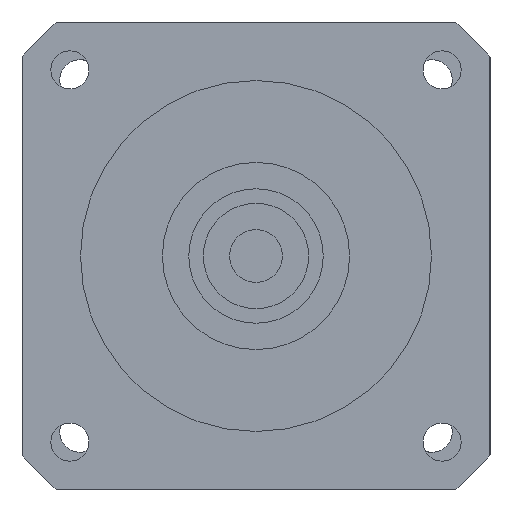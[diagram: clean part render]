
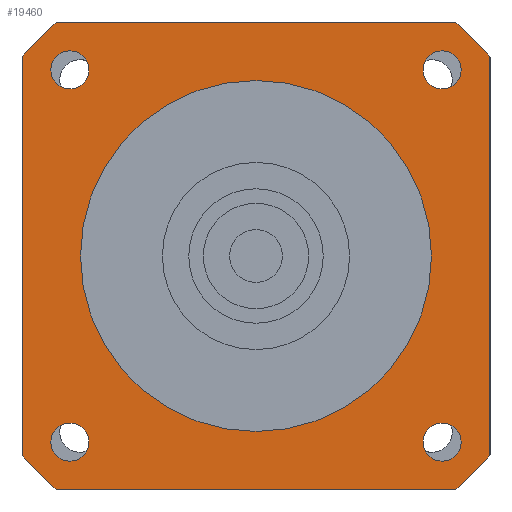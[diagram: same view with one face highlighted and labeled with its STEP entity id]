
A CAD part, left-side view. The second image highlights one B-rep face of the part: STEP entity #19460.
In plain terms, the highlighted planar face has unit normal (-1, 0, 0) as drawn and (0, 0, -1) by its records, which use the part's own axes.
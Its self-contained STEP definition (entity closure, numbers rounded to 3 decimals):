
#17790=CARTESIAN_POINT('',(28.57,-31.82,-42.));
#17800=VERTEX_POINT('',#17790);
#17830=CARTESIAN_POINT('',(31.82,-31.82,-42.));
#17840=DIRECTION('',(0.,0.,-1.));
#17850=DIRECTION('',(1.,0.,0.));
#17860=AXIS2_PLACEMENT_3D('',#17830,#17840,#17850);
#17870=CIRCLE('',#17860,3.25);
#17880=CARTESIAN_POINT('',(35.07,-31.82,-42.));
#17890=VERTEX_POINT('',#17880);
#17900=EDGE_CURVE('',#17890,#17800,#17870,.T.);
#18020=CARTESIAN_POINT('',(40.,40.,-42.));
#18030=DIRECTION('',(0.,0.,-1.));
#18040=DIRECTION('',(1.,0.,0.));
#18050=AXIS2_PLACEMENT_3D('',#18020,#18030,#18040);
#18060=PLANE('',#18050);
#18070=CARTESIAN_POINT('',(-31.82,-31.82,-42.));
#18080=DIRECTION('',(0.,0.,-1.));
#18090=DIRECTION('',(0.,-1.,0.));
#18100=AXIS2_PLACEMENT_3D('',#18070,#18080,#18090);
#18110=CIRCLE('',#18100,3.25);
#18120=CARTESIAN_POINT('',(-31.82,-35.07,-42.));
#18130=VERTEX_POINT('',#18120);
#18140=CARTESIAN_POINT('',(-31.82,-28.57,-42.));
#18150=VERTEX_POINT('',#18140);
#18160=EDGE_CURVE('',#18130,#18150,#18110,.T.);
#18170=ORIENTED_EDGE('',*,*,#18160,.F.);
#18180=EDGE_CURVE('',#18150,#18130,#18110,.T.);
#18190=ORIENTED_EDGE('',*,*,#18180,.F.);
#18200=EDGE_LOOP('',(#18190,#18170));
#18210=FACE_BOUND('',#18200,.T.);
#18220=CARTESIAN_POINT('',(-31.82,31.82,-42.));
#18230=DIRECTION('',(0.,0.,-1.));
#18240=DIRECTION('',(-1.,0.,0.));
#18250=AXIS2_PLACEMENT_3D('',#18220,#18230,#18240);
#18260=CIRCLE('',#18250,3.25);
#18270=CARTESIAN_POINT('',(-35.07,31.82,-42.));
#18280=VERTEX_POINT('',#18270);
#18290=CARTESIAN_POINT('',(-28.57,31.82,-42.));
#18300=VERTEX_POINT('',#18290);
#18310=EDGE_CURVE('',#18280,#18300,#18260,.T.);
#18320=ORIENTED_EDGE('',*,*,#18310,.F.);
#18330=EDGE_CURVE('',#18300,#18280,#18260,.T.);
#18340=ORIENTED_EDGE('',*,*,#18330,.F.);
#18350=EDGE_LOOP('',(#18340,#18320));
#18360=FACE_BOUND('',#18350,.T.);
#18370=CARTESIAN_POINT('',(31.82,31.82,-42.));
#18380=DIRECTION('',(0.,0.,-1.));
#18390=DIRECTION('',(0.,1.,0.));
#18400=AXIS2_PLACEMENT_3D('',#18370,#18380,#18390);
#18410=CIRCLE('',#18400,3.25);
#18420=CARTESIAN_POINT('',(31.82,35.07,-42.));
#18430=VERTEX_POINT('',#18420);
#18440=CARTESIAN_POINT('',(31.82,28.57,-42.));
#18450=VERTEX_POINT('',#18440);
#18460=EDGE_CURVE('',#18430,#18450,#18410,.T.);
#18470=ORIENTED_EDGE('',*,*,#18460,.F.);
#18480=EDGE_CURVE('',#18450,#18430,#18410,.T.);
#18490=ORIENTED_EDGE('',*,*,#18480,.F.);
#18500=EDGE_LOOP('',(#18490,#18470));
#18510=FACE_BOUND('',#18500,.T.);
#18520=CARTESIAN_POINT('',(0.,0.,
-42.));
#18530=DIRECTION('',(0.,0.,1.));
#18540=DIRECTION('',(0.,1.,0.));
#18550=AXIS2_PLACEMENT_3D('',#18520,#18530,#18540);
#18560=CIRCLE('',#18550,30.);
#18570=CARTESIAN_POINT('',(-30.,0.,-42.));
#18580=VERTEX_POINT('',#18570);
#18590=CARTESIAN_POINT('',(30.,0.,-42.));
#18600=VERTEX_POINT('',#18590);
#18610=EDGE_CURVE('',#18580,#18600,#18560,.T.);
#18620=ORIENTED_EDGE('',*,*,#18610,.T.);
#18630=CARTESIAN_POINT('',(0.,30.,-42.));
#18640=VERTEX_POINT('',#18630);
#18650=EDGE_CURVE('',#18640,#18580,#18560,.T.);
#18660=ORIENTED_EDGE('',*,*,#18650,.T.);
#18670=EDGE_CURVE('',#18600,#18640,#18560,.T.);
#18680=ORIENTED_EDGE('',*,*,#18670,.T.);
#18690=EDGE_LOOP('',(#18680,#18660,#18620));
#18700=FACE_BOUND('',#18690,.T.);
#18710=CARTESIAN_POINT('',(-40.,40.,-42.));
#18720=DIRECTION('',(1.,0.,0.));
#18730=VECTOR('',#18720,1000.);
#18740=LINE('',#18710,#18730);
#18750=CARTESIAN_POINT('',(-34.004,40.,-42.));
#18760=VERTEX_POINT('',#18750);
#18770=CARTESIAN_POINT('',(34.004,40.,-42.));
#18780=VERTEX_POINT('',#18770);
#18790=EDGE_CURVE('',#18760,#18780,#18740,.T.);
#18800=ORIENTED_EDGE('',*,*,#18790,.T.);
#18810=CARTESIAN_POINT('',(0.,0.,
-42.));
#18820=DIRECTION('',(0.,0.,-1.));
#18830=DIRECTION('',(1.,0.,0.));
#18840=AXIS2_PLACEMENT_3D('',#18810,#18820,#18830);
#18850=CIRCLE('',#18840,52.5);
#18860=CARTESIAN_POINT('',(-40.,34.004,-42.));
#18870=VERTEX_POINT('',#18860);
#18880=EDGE_CURVE('',#18870,#18760,#18850,.T.);
#18890=ORIENTED_EDGE('',*,*,#18880,.T.);
#18900=CARTESIAN_POINT('',(-40.,-40.,-42.));
#18910=DIRECTION('',(0.,1.,0.));
#18920=VECTOR('',#18910,1000.);
#18930=LINE('',#18900,#18920);
#18940=CARTESIAN_POINT('',(-40.,-34.004,-42.));
#18950=VERTEX_POINT('',#18940);
#18960=EDGE_CURVE('',#18950,#18870,#18930,.T.);
#18970=ORIENTED_EDGE('',*,*,#18960,.T.);
#18980=CARTESIAN_POINT('',(0.,0.,
-42.));
#18990=DIRECTION('',(0.,0.,-1.));
#19000=DIRECTION('',(1.,0.,0.));
#19010=AXIS2_PLACEMENT_3D('',#18980,#18990,#19000);
#19020=CIRCLE('',#19010,52.5);
#19030=CARTESIAN_POINT('',(-34.004,-40.,-42.));
#19040=VERTEX_POINT('',#19030);
#19050=EDGE_CURVE('',#19040,#18950,#19020,.T.);
#19060=ORIENTED_EDGE('',*,*,#19050,.T.);
#19070=CARTESIAN_POINT('',(40.,-40.,-42.));
#19080=DIRECTION('',(-1.,0.,0.));
#19090=VECTOR('',#19080,1000.);
#19100=LINE('',#19070,#19090);
#19110=CARTESIAN_POINT('',(34.004,-40.,-42.));
#19120=VERTEX_POINT('',#19110);
#19130=EDGE_CURVE('',#19120,#19040,#19100,.T.);
#19140=ORIENTED_EDGE('',*,*,#19130,.T.);
#19150=CARTESIAN_POINT('',(0.,0.,
-42.));
#19160=DIRECTION('',(0.,0.,-1.));
#19170=DIRECTION('',(1.,0.,0.));
#19180=AXIS2_PLACEMENT_3D('',#19150,#19160,#19170);
#19190=CIRCLE('',#19180,52.5);
#19200=CARTESIAN_POINT('',(40.,-34.004,-42.));
#19210=VERTEX_POINT('',#19200);
#19220=EDGE_CURVE('',#19210,#19120,#19190,.T.);
#19230=ORIENTED_EDGE('',*,*,#19220,.T.);
#19240=CARTESIAN_POINT('',(40.,40.,-42.));
#19250=DIRECTION('',(0.,-1.,0.));
#19260=VECTOR('',#19250,1000.);
#19270=LINE('',#19240,#19260);
#19280=CARTESIAN_POINT('',(40.,34.004,-42.));
#19290=VERTEX_POINT('',#19280);
#19300=EDGE_CURVE('',#19290,#19210,#19270,.T.);
#19310=ORIENTED_EDGE('',*,*,#19300,.T.);
#19320=CARTESIAN_POINT('',(0.,0.,
-42.));
#19330=DIRECTION('',(0.,0.,-1.));
#19340=DIRECTION('',(1.,0.,0.));
#19350=AXIS2_PLACEMENT_3D('',#19320,#19330,#19340);
#19360=CIRCLE('',#19350,52.5);
#19370=EDGE_CURVE('',#18780,#19290,#19360,.T.);
#19380=ORIENTED_EDGE('',*,*,#19370,.T.);
#19390=EDGE_LOOP('',(#19380,#19310,#19230,#19140,#19060,#18970,#18890,
#18800));
#19400=FACE_OUTER_BOUND('',#19390,.T.);
#19410=ORIENTED_EDGE('',*,*,#17900,.F.);
#19420=EDGE_CURVE('',#17800,#17890,#17870,.T.);
#19430=ORIENTED_EDGE('',*,*,#19420,.F.);
#19440=EDGE_LOOP('',(#19430,#19410));
#19450=FACE_BOUND('',#19440,.T.);
#19460=ADVANCED_FACE('',(#18210,#18360,#18510,#18700,#19400,#19450),
#18060,.T.);
